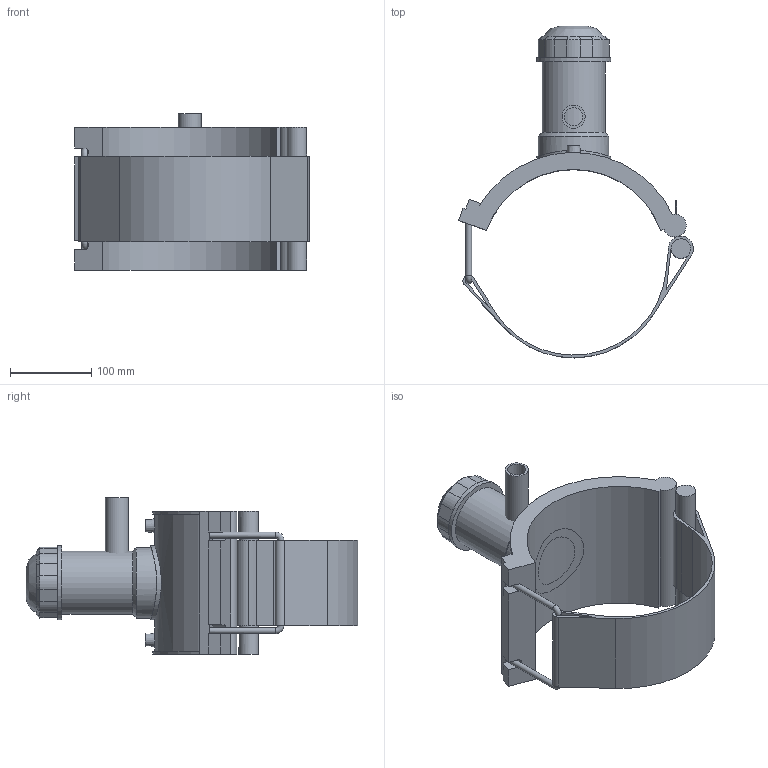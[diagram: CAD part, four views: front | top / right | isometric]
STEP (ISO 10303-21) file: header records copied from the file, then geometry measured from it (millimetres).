
FILE_DESCRIPTION(/* description */ ('PLASSON TAPPING SADDLE 8''''DIPS x 1''''CTS'),/* implementation_level */ '2;1');
FILE_NAME(/* name */ 'C:\Dropbox\KIMPROJECTS-Inventor 2019\99-16-3568-Processing Inch\ASTM ElectroFusion 2021\5963DBP_5963BUP\5963DUP3080010.ipt.stp',/* time_stamp */ '2021-08-30T09:59:09+03:00',/* author */ ('KIM'),/* organization */ (''),/* preprocessor_version */ 'ST-DEVELOPER v17.2',/* originating_system */ 'Autodesk Inventor 2019',/* authorisation */ '');
FILE_SCHEMA (('AUTOMOTIVE_DESIGN { 1 0 10303 214 3 1 1 }'));
Length unit declared in the file: inch
Products named in the file (1): 5963DUP3080010
Bounding box: 289.75 x 409.37 x 192.91 mm (x, y, z)
Volume: 1985091.4 mm3; surface area: 379553.4 mm2
Topology: 3 solids, 3 shells, 125 faces, 315 edges, 206 vertices
Faces by surface type: plane 69, cylinder 40, cone 13, torus 2, bspline 1
Full cylindrical faces by diameter (mm): 4 x2, 7.325 x2, 10 x2, 22.76 x1, 24.123 x1, 28.45 x1, 64.092 x1, 77.826 x1, 86.982 x1, 91.56 x2
Entity records: 4185 total; most frequent: CARTESIAN_POINT 1043, DIRECTION 661, ORIENTED_EDGE 632, EDGE_CURVE 316, AXIS2_PLACEMENT_3D 240, VERTEX_POINT 206, LINE 181, VECTOR 181
